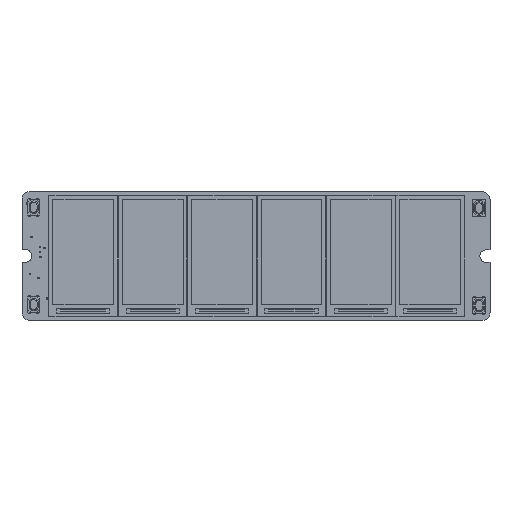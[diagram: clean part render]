
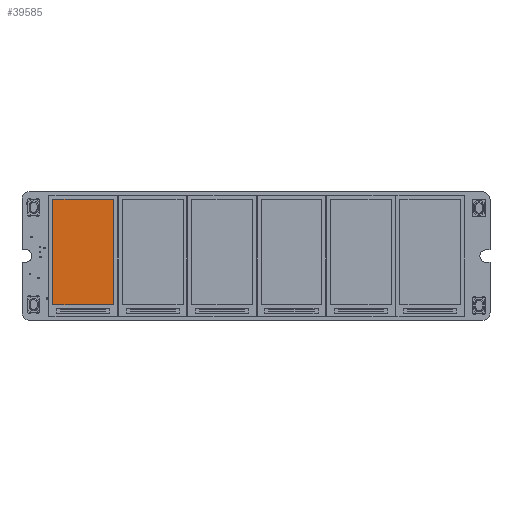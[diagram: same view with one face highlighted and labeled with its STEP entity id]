
A CAD part, top view. The second image highlights one B-rep face of the part: STEP entity #39585.
In plain terms, the highlighted planar face has unit normal (0, 0, 1).
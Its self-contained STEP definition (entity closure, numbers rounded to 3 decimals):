
#3871=PLANE('',#43001);
#5854=FACE_OUTER_BOUND('',#8128,.T.);
#8128=EDGE_LOOP('',(#36792,#36793,#36794,#36795));
#12407=LINE('',#64271,#16814);
#12410=LINE('',#64276,#16817);
#12412=LINE('',#64280,#16819);
#12413=LINE('',#64282,#16820);
#16814=VECTOR('',#52947,10.);
#16817=VECTOR('',#52952,10.);
#16819=VECTOR('',#52956,10.);
#16820=VECTOR('',#52959,10.);
#21211=VERTEX_POINT('',#64268);
#21212=VERTEX_POINT('',#64270);
#21213=VERTEX_POINT('',#64274);
#21214=VERTEX_POINT('',#64278);
#26431=EDGE_CURVE('',#21211,#21212,#12407,.T.);
#26434=EDGE_CURVE('',#21213,#21211,#12410,.T.);
#26436=EDGE_CURVE('',#21214,#21213,#12412,.T.);
#26437=EDGE_CURVE('',#21212,#21214,#12413,.T.);
#36792=ORIENTED_EDGE('',*,*,#26437,.F.);
#36793=ORIENTED_EDGE('',*,*,#26431,.F.);
#36794=ORIENTED_EDGE('',*,*,#26434,.F.);
#36795=ORIENTED_EDGE('',*,*,#26436,.F.);
#39585=ADVANCED_FACE('',(#5854),#3871,.F.);
#43001=AXIS2_PLACEMENT_3D('',#64283,#52960,#52961);
#52947=DIRECTION('',(-1.,0.,0.));
#52952=DIRECTION('',(0.,-1.,0.));
#52956=DIRECTION('',(1.,0.,0.));
#52959=DIRECTION('',(0.,1.,0.));
#52960=DIRECTION('center_axis',(0.,0.,
-1.));
#52961=DIRECTION('ref_axis',(0.,1.,0.));
#64268=CARTESIAN_POINT('',(30.,1.,1.3));
#64270=CARTESIAN_POINT('',(3.,1.,1.3));
#64271=CARTESIAN_POINT('',(30.,1.,1.3));
#64274=CARTESIAN_POINT('',(30.,16.6,1.3));
#64276=CARTESIAN_POINT('',(30.,16.6,1.3));
#64278=CARTESIAN_POINT('',(3.,16.6,1.3));
#64280=CARTESIAN_POINT('',(3.,16.6,1.3));
#64282=CARTESIAN_POINT('',(3.,1.,1.3));
#64283=CARTESIAN_POINT('Origin',(16.5,8.8,1.3));
